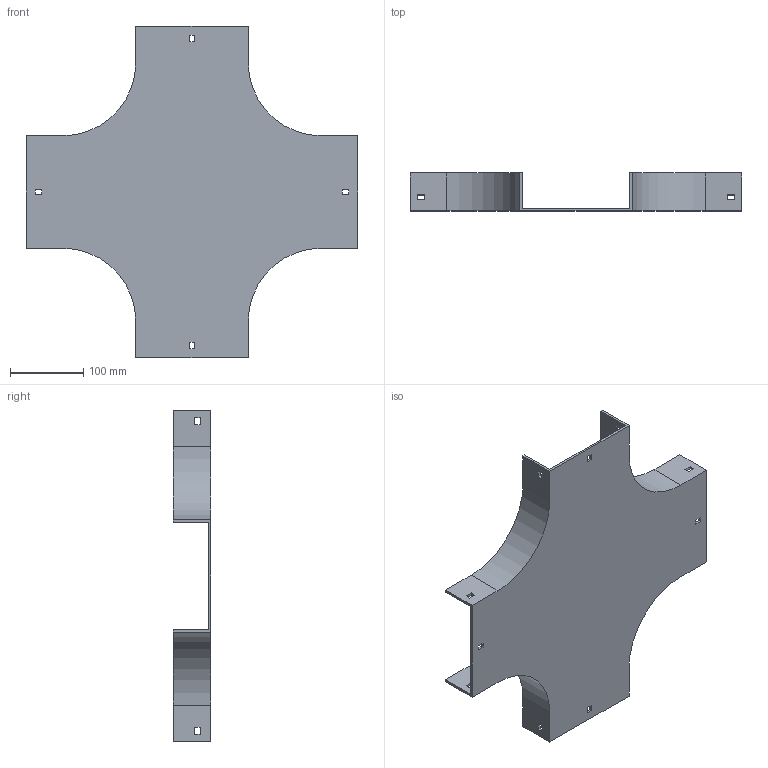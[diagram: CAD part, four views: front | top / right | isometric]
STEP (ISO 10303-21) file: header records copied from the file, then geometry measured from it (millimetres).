
FILE_DESCRIPTION (( 'STEP AP214' ), '1' );
FILE_NAME ('17B1B150.step', '2025-02-21T09:57:08', ( '' ), ( '' ), 'SwSTEP 2.0', 'SolidWorks 2023', '' );
FILE_SCHEMA (( 'AUTOMOTIVE_DESIGN' ));
Length unit declared in the file: millimetre
Products named in the file (1): 17B1B150
Bounding box: 454 x 52 x 454 mm (x, y, z)
Volume: 610094.8 mm3; surface area: 357124.7 mm2
Topology: 1 solids, 1 shells, 82 faces, 240 edges, 160 vertices
Faces by surface type: plane 74, cylinder 8
Entity records: 2751 total; most frequent: CARTESIAN_POINT 483, ORIENTED_EDGE 480, DIRECTION 422, EDGE_CURVE 240, LINE 224, VECTOR 224, VERTEX_POINT 160, EDGE_LOOP 106
